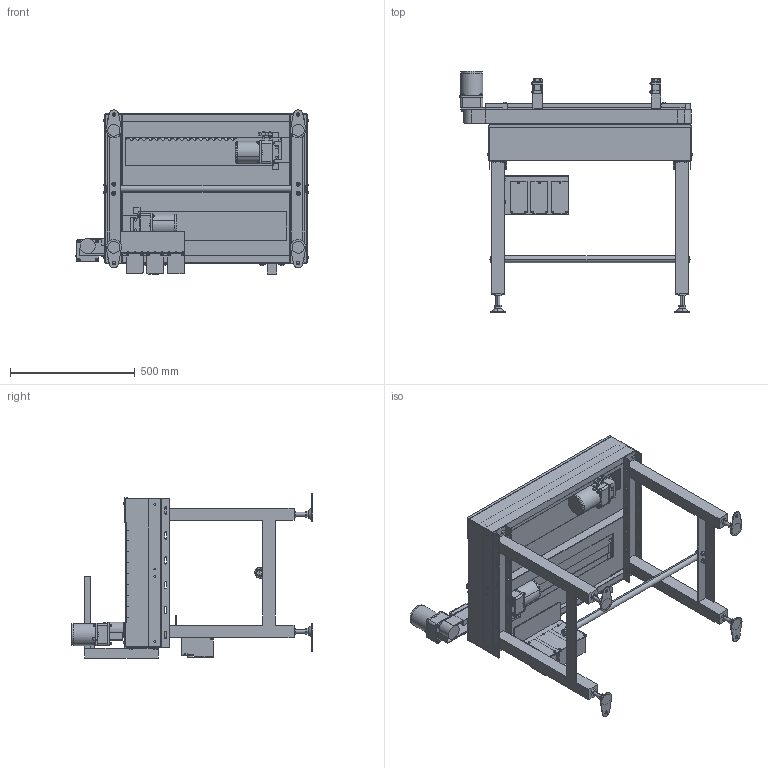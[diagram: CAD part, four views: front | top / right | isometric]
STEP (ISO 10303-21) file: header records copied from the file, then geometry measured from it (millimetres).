
FILE_DESCRIPTION( (''), '2;1');
FILE_NAME ('SGA-304x3-400-R-IVH-15-D.stp','2025-01-31T09:19:29',(''),(''),'spGate 20.6.2 (****-****-****-****)','','');
FILE_SCHEMA (('AUTOMOTIVE_DESIGN'));
Length unit declared in the file: millimetre
Products named in the file (91): NewModel; TEMP_X_T-prt0; TEMP_X_T-prt1; TEMP_X_T-prt2; TEMP_X_T-prt3; TEMP_X_T-prt4; TEMP_X_T-prt5; TEMP_X_T-prt6; TEMP_X_T-prt7; TEMP_X_T-prt8; TEMP_X_T-prt9; TEMP_X_T-prt10; TEMP_X_T-prt11; TEMP_X_T-prt12; TEMP_X_T-prt13; TEMP_X_T-prt14; TEMP_X_T-prt15; TEMP_X_T-prt16; TEMP_X_T-prt17; TEMP_X_T-prt18; TEMP_X_T-prt19; TEMP_X_T-prt20; TEMP_X_T-prt21; TEMP_X_T-prt22; TEMP_X_T-prt23; TEMP_X_T-prt24; TEMP_X_T-prt25; TEMP_X_T-prt26; TEMP_X_T-prt27; TEMP_X_T-prt28; TEMP_X_T-prt29; TEMP_X_T-prt30; TEMP_X_T-prt31; TEMP_X_T-prt32; TEMP_X_T-prt33; TEMP_X_T-prt34; TEMP_X_T-prt35; TEMP_X_T-prt36; TEMP_X_T-prt37; TEMP_X_T-prt38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
Assembly tree (90 placements, depth 2):
  NewModel
    TEMP_X_T-prt0
    TEMP_X_T-prt1
    TEMP_X_T-prt2
    TEMP_X_T-prt3
    TEMP_X_T-prt4
    TEMP_X_T-prt5
    TEMP_X_T-prt6
    TEMP_X_T-prt7
    TEMP_X_T-prt8
    TEMP_X_T-prt9
    TEMP_X_T-prt10
    TEMP_X_T-prt11
    TEMP_X_T-prt12
    TEMP_X_T-prt13
    TEMP_X_T-prt14
    TEMP_X_T-prt15
    TEMP_X_T-prt16
    TEMP_X_T-prt17
    TEMP_X_T-prt18
    TEMP_X_T-prt19
    TEMP_X_T-prt20
    TEMP_X_T-prt21
    TEMP_X_T-prt22
    TEMP_X_T-prt23
    TEMP_X_T-prt24
    TEMP_X_T-prt25
    TEMP_X_T-prt26
    TEMP_X_T-prt27
    TEMP_X_T-prt28
    TEMP_X_T-prt29
    TEMP_X_T-prt30
    TEMP_X_T-prt31
    TEMP_X_T-prt32
    TEMP_X_T-prt33
    TEMP_X_T-prt34
    TEMP_X_T-prt35
    TEMP_X_T-prt36
    TEMP_X_T-prt37
    TEMP_X_T-prt38
    TEMP_X_T-prt39
    TEMP_X_T-prt40
    TEMP_X_T-prt41
    TEMP_X_T-prt42
    TEMP_X_T-prt43
    TEMP_X_T-prt44
    TEMP_X_T-prt45
    TEMP_X_T-prt46
    TEMP_X_T-prt47
    TEMP_X_T-prt48
    TEMP_X_T-prt49
    TEMP_X_T-prt50
    TEMP_X_T-prt51
    TEMP_X_T-prt52
    TEMP_X_T-prt53
    TEMP_X_T-prt54
    TEMP_X_T-prt55
    TEMP_X_T-prt56
    TEMP_X_T-prt57
    TEMP_X_T-prt58
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Bounding box: 934.17 x 969.4 x 660 mm (x, y, z)
Volume: 24488995.7 mm3; surface area: 5507058.3 mm2
Topology: 90 solids, 90 shells, 3255 faces, 8049 edges, 5147 vertices
Faces by surface type: plane 2146, cylinder 750, bspline 343, sphere 16
Entity records: 167071 total; most frequent: CARTESIAN_POINT 24056, ORIENTED_EDGE 16010, DIRECTION 15047, COLOUR_RGB 11350, PRESENTATION_STYLE_ASSIGNMENT 11350, STYLED_ITEM 11350, EDGE_CURVE 8005, DRAUGHTING_PRE_DEFINED_CURVE_FONT 8005
